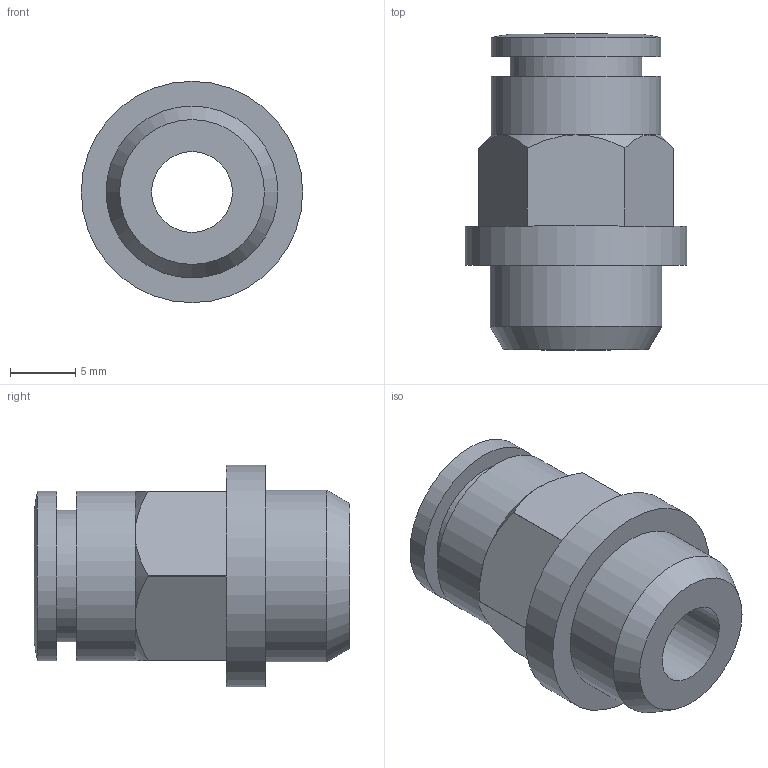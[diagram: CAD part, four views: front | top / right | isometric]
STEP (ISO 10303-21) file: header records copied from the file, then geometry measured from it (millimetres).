
FILE_DESCRIPTION((''),'2;1');
FILE_NAME('C:\Documents and Settings\rivolro1\Documenti\copia di Raccordi\T01XXXX\T010814.stp','2007-10-30T15:14:19',('Rivolro1'),(''),'Autodesk Inventor 2008','Autodesk Inventor 2008','');
FILE_SCHEMA(('AUTOMOTIVE_DESIGN { 1 0 10303 214 1 1 1 1 }'));
Length unit declared in the file: millimetre
Products named in the file (1): T010814
Bounding box: 17 x 24.25 x 17 mm (x, y, z)
Volume: 2340.6 mm3; surface area: 2082.2 mm2
Topology: 1 solids, 1 shells, 34 faces, 72 edges, 45 vertices
Faces by surface type: plane 13, cylinder 12, cone 8, bspline 1
Full cylindrical faces by diameter (mm): 8.2 x1, 10.1 x1, 13 x2, 13.2 x1, 17 x1
Entity records: 919 total; most frequent: CARTESIAN_POINT 184, DIRECTION 152, ORIENTED_EDGE 126, AXIS2_PLACEMENT_3D 67, EDGE_CURVE 63, EDGE_LOOP 50, VERTEX_POINT 45, FACE_OUTER_BOUND 34
